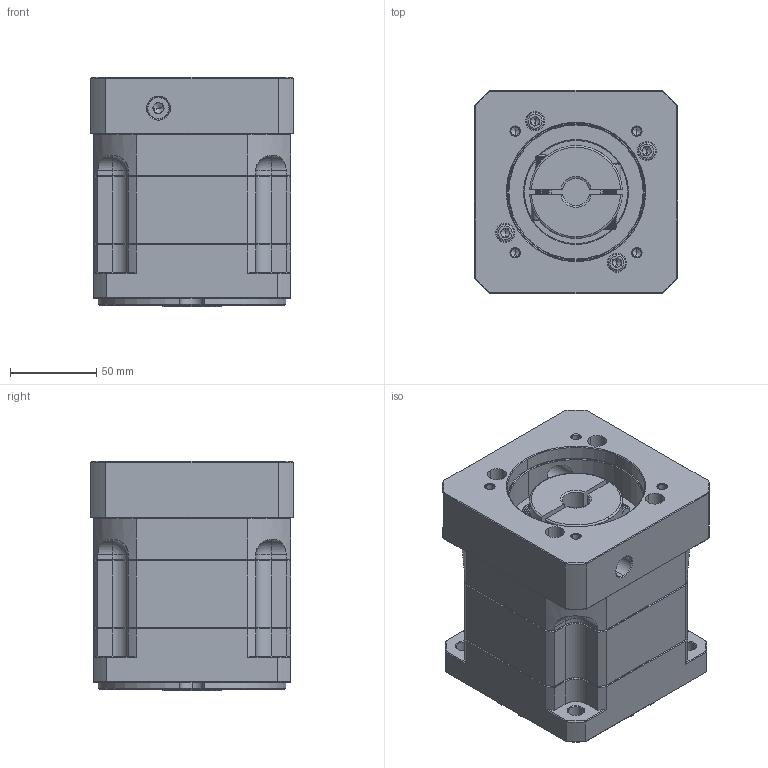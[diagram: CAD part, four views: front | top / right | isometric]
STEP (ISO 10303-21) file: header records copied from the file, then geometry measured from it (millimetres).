
FILE_DESCRIPTION (( 'STEP AP214' ), '1' );
FILE_NAME ('ZB115A-K25-L1-P2-16-80-100-M6.step', '2023-08-26T06:33:56', ( '' ), ( '' ), 'SwSTEP 2.0', 'SolidWorks 2016', '' );
FILE_SCHEMA (( 'AUTOMOTIVE_DESIGN' ));
Length unit declared in the file: millimetre
Products named in the file (1): ZB115A-K25-L1-P2-16-80-100-M6
Bounding box: 118 x 118 x 133.5 mm (x, y, z)
Volume: 1447613 mm3; surface area: 158754.1 mm2
Topology: 6 solids, 6 shells, 2145 faces, 5696 edges, 3651 vertices
Faces by surface type: plane 1129, bspline 390, cone 330, cylinder 264, torus 28, sphere 4
Entity records: 105848 total; most frequent: CARTESIAN_POINT 31247, ORIENTED_EDGE 11328, DIRECTION 9262, EDGE_CURVE 5664, VECTOR 3738, LINE 3738, VERTEX_POINT 3651, AXIS2_PLACEMENT_3D 2762
